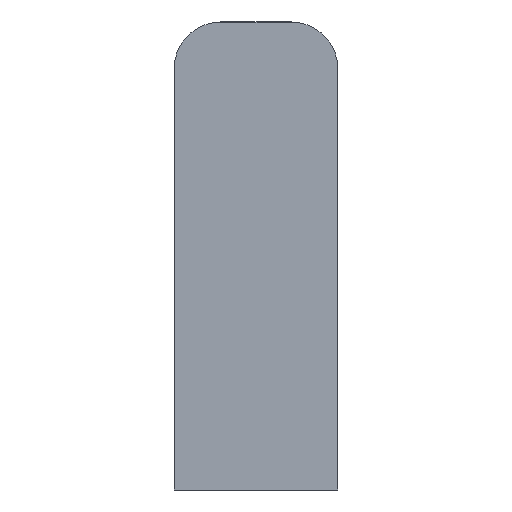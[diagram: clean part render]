
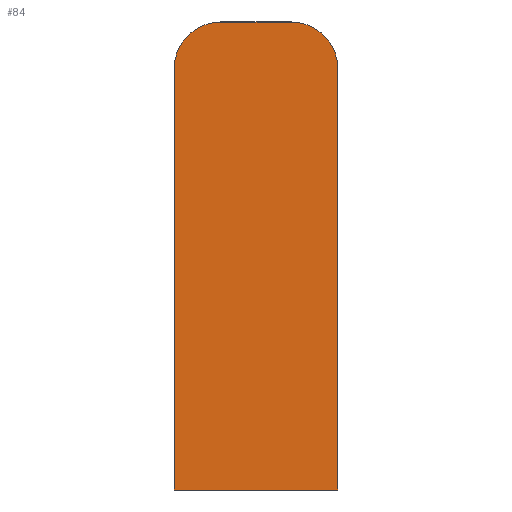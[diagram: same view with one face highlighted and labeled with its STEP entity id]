
A CAD part, front view. The second image highlights one B-rep face of the part: STEP entity #84.
In plain terms, the highlighted planar face has unit normal (0, -1, 0).
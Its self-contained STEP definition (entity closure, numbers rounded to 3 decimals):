
#1 = LINE ( 'NONE', #208, #2 ) ;
#2 = VECTOR ( 'NONE', #211, 1000. ) ;
#5 = FACE_OUTER_BOUND ( 'NONE', #40, .T. ) ;
#6 = VERTEX_POINT ( 'NONE', #17 ) ;
#11 = VERTEX_POINT ( 'NONE', #19 ) ;
#12 = VERTEX_POINT ( 'NONE', #171 ) ;
#15 = VERTEX_POINT ( 'NONE', #164 ) ;
#17 = CARTESIAN_POINT ( 'NONE',  ( 5.25, 0., 10.5 ) ) ;
#19 = CARTESIAN_POINT ( 'NONE',  ( -5.25, 0., 10.5 ) ) ;
#20 = VERTEX_POINT ( 'NONE', #178 ) ;
#24 = ORIENTED_EDGE ( 'NONE', *, *, #151, .T. ) ;
#27 = ORIENTED_EDGE ( 'NONE', *, *, #131, .T. ) ;
#29 = ORIENTED_EDGE ( 'NONE', *, *, #148, .T. ) ;
#30 = ORIENTED_EDGE ( 'NONE', *, *, #156, .T. ) ;
#31 = ORIENTED_EDGE ( 'NONE', *, *, #158, .T. ) ;
#37 = ORIENTED_EDGE ( 'NONE', *, *, #129, .T. ) ;
#40 = EDGE_LOOP ( 'NONE', ( #27, #29, #30, #31, #24, #37 ) ) ;
#71 = LINE ( 'NONE', #210, #90 ) ;
#84 = ADVANCED_FACE ( 'NONE', ( #5 ), #198, .F. ) ;
#90 = VECTOR ( 'NONE', #212, 1000. ) ;
#104 = LINE ( 'NONE', #219, #110 ) ;
#105 = CIRCLE ( 'NONE', #140, 3. ) ;
#106 = LINE ( 'NONE', #230, #107 ) ;
#107 = VECTOR ( 'NONE', #231, 1000. ) ;
#110 = VECTOR ( 'NONE', #236, 1000. ) ;
#113 = CIRCLE ( 'NONE', #141, 3. ) ;
#129 = EDGE_CURVE ( 'NONE', #15, #169, #1, .T. ) ;
#131 = EDGE_CURVE ( 'NONE', #169, #6, #71, .T. ) ;
#140 = AXIS2_PLACEMENT_3D ( 'NONE', #222, #226, #227 ) ;
#141 = AXIS2_PLACEMENT_3D ( 'NONE', #235, #238, #239 ) ;
#148 = EDGE_CURVE ( 'NONE', #6, #12, #105, .T. ) ;
#149 = AXIS2_PLACEMENT_3D ( 'NONE', #195, #188, #187 ) ;
#151 = EDGE_CURVE ( 'NONE', #11, #15, #106, .T. ) ;
#156 = EDGE_CURVE ( 'NONE', #12, #20, #104, .T. ) ;
#158 = EDGE_CURVE ( 'NONE', #20, #11, #113, .T. ) ;
#164 = CARTESIAN_POINT ( 'NONE',  ( -5.25, 0., -16.5 ) ) ;
#169 = VERTEX_POINT ( 'NONE', #242 ) ;
#171 = CARTESIAN_POINT ( 'NONE',  ( 2.25, 0., 13.5 ) ) ;
#178 = CARTESIAN_POINT ( 'NONE',  ( -2.25, 0., 13.5 ) ) ;
#187 = DIRECTION ( 'NONE',  ( -1., 0., 0. ) ) ;
#188 = DIRECTION ( 'NONE',  ( 0., 1., 0. ) ) ;
#195 = CARTESIAN_POINT ( 'NONE',  ( 0., 0., -1.5 ) ) ;
#198 = PLANE ( 'NONE',  #149 ) ;
#208 = CARTESIAN_POINT ( 'NONE',  ( 5.25, 0., -16.5 ) ) ;
#210 = CARTESIAN_POINT ( 'NONE',  ( 5.25, 0., -16.5 ) ) ;
#211 = DIRECTION ( 'NONE',  ( 1., 0., 0. ) ) ;
#212 = DIRECTION ( 'NONE',  ( 0., 0., 1. ) ) ;
#219 = CARTESIAN_POINT ( 'NONE',  ( 2.25, 0., 13.5 ) ) ;
#222 = CARTESIAN_POINT ( 'NONE',  ( 2.25, 0., 10.5 ) ) ;
#226 = DIRECTION ( 'NONE',  ( 0., -1., 0. ) ) ;
#227 = DIRECTION ( 'NONE',  ( -1., 0., 0. ) ) ;
#230 = CARTESIAN_POINT ( 'NONE',  ( -5.25, 0., -16.5 ) ) ;
#231 = DIRECTION ( 'NONE',  ( 0., 0., -1. ) ) ;
#235 = CARTESIAN_POINT ( 'NONE',  ( -2.25, 0., 10.5 ) ) ;
#236 = DIRECTION ( 'NONE',  ( -1., 0., 0. ) ) ;
#238 = DIRECTION ( 'NONE',  ( 0., -1., 0. ) ) ;
#239 = DIRECTION ( 'NONE',  ( -1., 0., 0. ) ) ;
#242 = CARTESIAN_POINT ( 'NONE',  ( 5.25, 0., -16.5 ) ) ;
